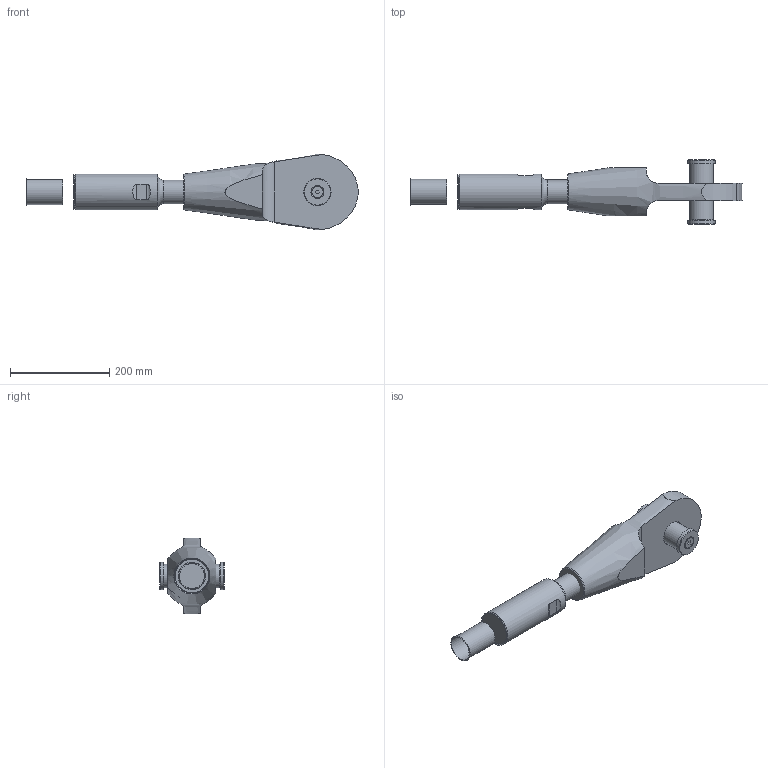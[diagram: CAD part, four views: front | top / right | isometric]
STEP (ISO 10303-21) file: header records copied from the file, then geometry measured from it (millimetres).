
FILE_DESCRIPTION(/* description */ (''),/* implementation_level */ '2;1');
FILE_NAME(/* name */ 'C:\Vault_WS\Designs\SB\01-PX\Verzinkt\ZSS\520 - Zusambau-OES-ADA\520-048-OES-ADA.stp',/* time_stamp */ '2020-10-07T15:39:10+02:00',/* author */ ('schwarz'),/* organization */ (''),/* preprocessor_version */ 'ST-DEVELOPER v18.1',/* originating_system */ 'Autodesk Inventor 2020',/* authorisation */ '');
FILE_SCHEMA (('AUTOMOTIVE_DESIGN { 1 0 10303 214 3 1 1 }'));
Length unit declared in the file: millimetre
Products named in the file (1): 520-048-OES-ADA-Kunde
Bounding box: 669.25 x 130.44 x 152.7 mm (x, y, z)
Volume: 3325311 mm3; surface area: 260122.4 mm2
Topology: 6 solids, 6 shells, 62 faces, 151 edges, 105 vertices
Faces by surface type: plane 27, cylinder 20, cone 13, torus 2
Full cylindrical faces by diameter (mm): 10.106 x1, 12 x1, 13.5 x1, 23.12 x1, 48 x2, 50.5 x1, 51 x1, 55 x2, 72 x1
Entity records: 2184 total; most frequent: CARTESIAN_POINT 577, DIRECTION 312, ORIENTED_EDGE 298, EDGE_CURVE 149, AXIS2_PLACEMENT_3D 130, VERTEX_POINT 105, EDGE_LOOP 72, STYLED_ITEM 68
